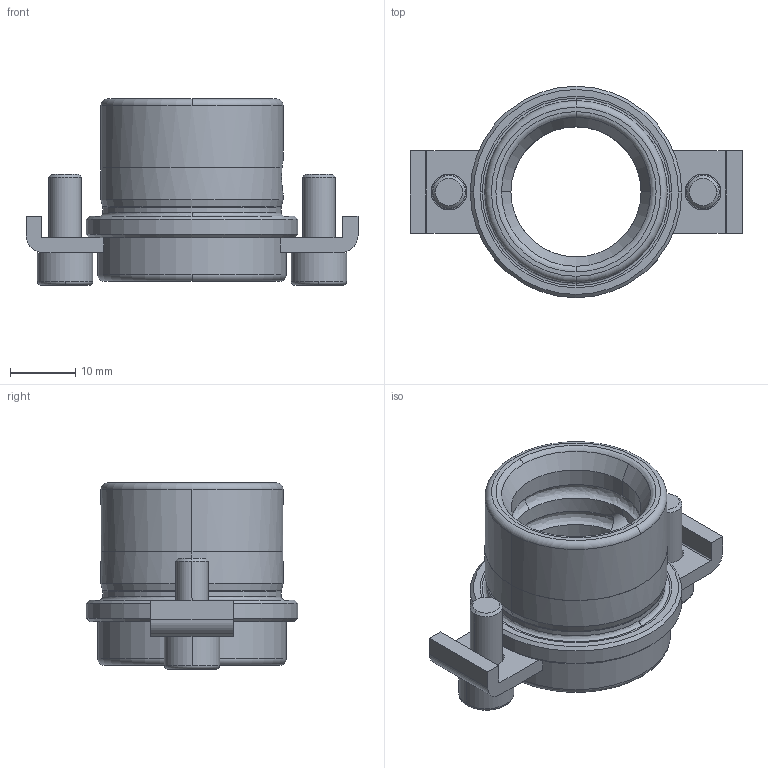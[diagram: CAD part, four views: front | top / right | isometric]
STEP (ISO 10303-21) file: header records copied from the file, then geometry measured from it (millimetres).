
FILE_DESCRIPTION((''),'2;1');
FILE_NAME('B12_020_010.stp','2008-11-04T11:43:15',(''),(''),'Mechanical Desktop 2009','Mechanical Desktop 2009',', , ');
FILE_SCHEMA(('CONFIG_CONTROL_DESIGN'));
Length unit declared in the file: millimetre
Products named in the file (2): Product; blmdl1
Assembly tree (1 placements, depth 2):
  Product
    blmdl1
Bounding box: 51 x 32.5 x 28.6 mm (x, y, z)
Volume: 10309.2 mm3; surface area: 7147.7 mm2
Topology: 5 solids, 5 shells, 116 faces, 298 edges, 196 vertices
Faces by surface type: plane 39, cylinder 38, cone 14, bspline 13, torus 12
Entity records: 4562 total; most frequent: CARTESIAN_POINT 1523, DIRECTION 666, ORIENTED_EDGE 596, EDGE_CURVE 298, AXIS2_PLACEMENT_3D 273, VERTEX_POINT 196, CIRCLE 168, EDGE_LOOP 128
